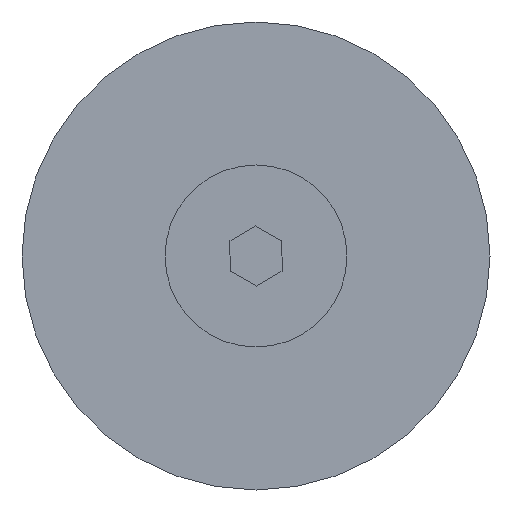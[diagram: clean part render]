
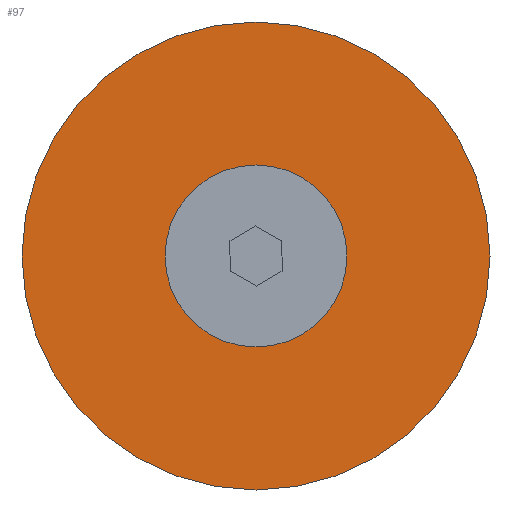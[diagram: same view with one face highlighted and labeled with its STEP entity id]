
A CAD part, front view. The second image highlights one B-rep face of the part: STEP entity #97.
In plain terms, the highlighted planar face has unit normal (0, -1, 0).
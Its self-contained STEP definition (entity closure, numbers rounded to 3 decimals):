
#97=ADVANCED_FACE('',(#166,#167),#168,.F.);
#166=FACE_OUTER_BOUND('',#259,.T.);
#167=FACE_BOUND('',#260,.T.);
#168=PLANE('',#261);
#259=EDGE_LOOP('',(#471,#472));
#260=EDGE_LOOP('',(#473,#474));
#261=AXIS2_PLACEMENT_3D('',#475,#476,#477);
#471=ORIENTED_EDGE('',*,*,#640,.T.);
#472=ORIENTED_EDGE('',*,*,#686,.T.);
#473=ORIENTED_EDGE('',*,*,#634,.F.);
#474=ORIENTED_EDGE('',*,*,#687,.F.);
#475=CARTESIAN_POINT('',(-9.,-5.0,0.0));
#476=DIRECTION('',(-0.0,1.0,0.0));
#477=DIRECTION('',(1.0,0.0,0.0));
#634=EDGE_CURVE('',#738,#739,#740,.T.);
#640=EDGE_CURVE('',#751,#749,#752,.T.);
#686=EDGE_CURVE('',#749,#751,#826,.T.);
#687=EDGE_CURVE('',#739,#738,#827,.T.);
#738=VERTEX_POINT('',#900);
#739=VERTEX_POINT('',#901);
#740=CIRCLE('',#902,3.5);
#749=VERTEX_POINT('',#913);
#751=VERTEX_POINT('',#916);
#752=CIRCLE('',#917,9.0);
#826=CIRCLE('',#1024,9.0);
#827=CIRCLE('',#1025,3.5);
#900=CARTESIAN_POINT('',(0.,-5.0,-3.5));
#901=CARTESIAN_POINT('',(0.,-5.0,3.5));
#902=AXIS2_PLACEMENT_3D('',#1124,#1125,#1126);
#913=CARTESIAN_POINT('',(0.,-5.0,9.0));
#916=CARTESIAN_POINT('',(0.,-5.0,-9.0));
#917=AXIS2_PLACEMENT_3D('',#1136,#1137,#1138);
#1024=AXIS2_PLACEMENT_3D('',#1208,#1209,#1210);
#1025=AXIS2_PLACEMENT_3D('',#1211,#1212,#1213);
#1124=CARTESIAN_POINT('',(0.,-5.0,0.0));
#1125=DIRECTION('',(0.0,-1.0,0.0));
#1126=DIRECTION('',(0.0,0.0,-1.0));
#1136=CARTESIAN_POINT('',(0.,-5.0,0.0));
#1137=DIRECTION('',(0.0,-1.0,0.0));
#1138=DIRECTION('',(0.0,0.0,-1.0));
#1208=CARTESIAN_POINT('',(0.,-5.0,0.0));
#1209=DIRECTION('',(0.0,-1.0,0.0));
#1210=DIRECTION('',(0.0,0.0,-1.0));
#1211=CARTESIAN_POINT('',(0.,-5.0,0.0));
#1212=DIRECTION('',(0.0,-1.0,0.0));
#1213=DIRECTION('',(0.0,0.0,-1.0));
